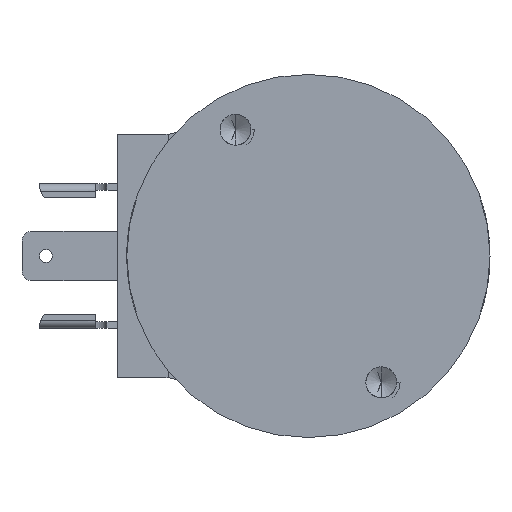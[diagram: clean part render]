
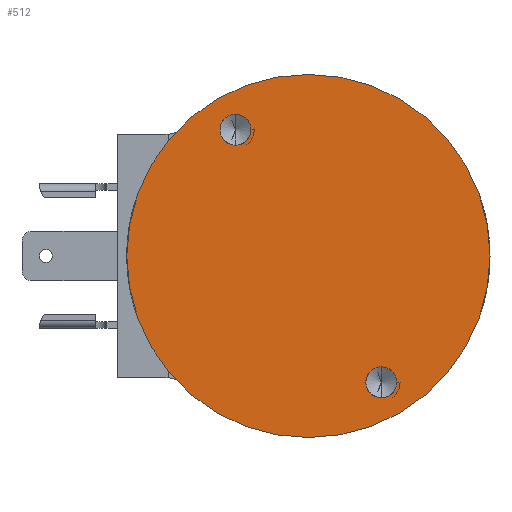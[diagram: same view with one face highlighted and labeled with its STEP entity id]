
A CAD part, front view. The second image highlights one B-rep face of the part: STEP entity #512.
In plain terms, the highlighted planar face has unit normal (0, -1, 0).
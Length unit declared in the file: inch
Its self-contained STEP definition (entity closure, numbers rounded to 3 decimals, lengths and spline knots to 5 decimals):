
#134 = CARTESIAN_POINT ( 'NONE',  ( 0., -1.74, 0. ) ) ;
#226 = CIRCLE ( 'NONE', #18549, 0.0795 ) ;
#423 = DIRECTION ( 'NONE',  ( 0., 0., 1. ) ) ;
#487 = AXIS2_PLACEMENT_3D ( 'NONE', #134, #9165, #423 ) ;
#512 = ADVANCED_FACE ( 'Defeatured_0_19', ( #8758, #18622, #16334 ), #14569, .F. ) ;
#816 = ORIENTED_EDGE ( 'NONE', *, *, #7359, .F. ) ;
#1103 = AXIS2_PLACEMENT_3D ( 'NONE', #12730, #18694, #12827 ) ;
#1674 = ORIENTED_EDGE ( 'NONE', *, *, #16246, .F. ) ;
#1828 = CARTESIAN_POINT ( 'NONE',  ( 0., -1.74, 0. ) ) ;
#2171 = EDGE_LOOP ( 'NONE', ( #816, #16410, #14311 ) ) ;
#2329 = CIRCLE ( 'NONE', #1103, 0.0795 ) ;
#2381 = CIRCLE ( 'NONE', #2703, 0.0795 ) ;
#2396 = CARTESIAN_POINT ( 'NONE',  ( -0.375, -1.74, 0.57002 ) ) ;
#2399 = DIRECTION ( 'NONE',  ( 0., 0., -1. ) ) ;
#2449 = CARTESIAN_POINT ( 'NONE',  ( 0.4545, -1.74, -0.64952 ) ) ;
#2703 = AXIS2_PLACEMENT_3D ( 'NONE', #8403, #15778, #9852 ) ;
#2796 = VERTEX_POINT ( 'NONE', #18935 ) ;
#2965 = AXIS2_PLACEMENT_3D ( 'NONE', #12729, #14294, #9442 ) ;
#3576 = CIRCLE ( 'NONE', #487, 0.934 ) ;
#3857 = DIRECTION ( 'NONE',  ( 0., 0., -1. ) ) ;
#4509 = EDGE_CURVE ( 'NONE', #5755, #12815, #2329, .T. ) ;
#4525 = AXIS2_PLACEMENT_3D ( 'NONE', #14855, #6761, #5858 ) ;
#4692 = ORIENTED_EDGE ( 'NONE', *, *, #12898, .F. ) ;
#5755 = VERTEX_POINT ( 'NONE', #18319 ) ;
#5778 = VERTEX_POINT ( 'NONE', #17941 ) ;
#5858 = DIRECTION ( 'NONE',  ( 0., 0., 1. ) ) ;
#6761 = DIRECTION ( 'NONE',  ( 0., 1., 0. ) ) ;
#6788 = CARTESIAN_POINT ( 'NONE',  ( 0.375, -1.74, -0.64952 ) ) ;
#6916 = EDGE_CURVE ( 'NONE', #8305, #2796, #2381, .T. ) ;
#7061 = CIRCLE ( 'NONE', #17934, 0.0795 ) ;
#7136 = EDGE_CURVE ( 'NONE', #5778, #16745, #15725, .T. ) ;
#7335 = EDGE_CURVE ( 'NONE', #15126, #5755, #7061, .T. ) ;
#7359 = EDGE_CURVE ( 'NONE', #12815, #15126, #226, .T. ) ;
#7675 = AXIS2_PLACEMENT_3D ( 'NONE', #1828, #9395, #13680 ) ;
#8305 = VERTEX_POINT ( 'NONE', #2396 ) ;
#8403 = CARTESIAN_POINT ( 'NONE',  ( -0.375, -1.74, 0.64952 ) ) ;
#8758 = FACE_BOUND ( 'NONE', #15341, .T. ) ;
#9165 = DIRECTION ( 'NONE',  ( 0., 1., 0. ) ) ;
#9271 = VERTEX_POINT ( 'NONE', #10625 ) ;
#9395 = DIRECTION ( 'NONE',  ( 0., 1., 0. ) ) ;
#9442 = DIRECTION ( 'NONE',  ( 0., 0., -1. ) ) ;
#9780 = DIRECTION ( 'NONE',  ( 0., -1., 0. ) ) ;
#9852 = DIRECTION ( 'NONE',  ( 0., 0., -1. ) ) ;
#9880 = CARTESIAN_POINT ( 'NONE',  ( 0.375, -1.74, -0.64952 ) ) ;
#9983 = ORIENTED_EDGE ( 'NONE', *, *, #12587, .F. ) ;
#10625 = CARTESIAN_POINT ( 'NONE',  ( -0.375, -1.74, 0.72902 ) ) ;
#11128 = CARTESIAN_POINT ( 'NONE',  ( -0.375, -1.74, 0.64952 ) ) ;
#11236 = DIRECTION ( 'NONE',  ( 0., -1., 0. ) ) ;
#12587 = EDGE_CURVE ( 'NONE', #16745, #5778, #3576, .T. ) ;
#12729 = CARTESIAN_POINT ( 'NONE',  ( -0.375, -1.74, 0.64952 ) ) ;
#12730 = CARTESIAN_POINT ( 'NONE',  ( 0.375, -1.74, -0.64952 ) ) ;
#12815 = VERTEX_POINT ( 'NONE', #2449 ) ;
#12827 = DIRECTION ( 'NONE',  ( 0., 0., -1. ) ) ;
#12881 = CIRCLE ( 'NONE', #2965, 0.0795 ) ;
#12886 = AXIS2_PLACEMENT_3D ( 'NONE', #11128, #17084, #16479 ) ;
#12898 = EDGE_CURVE ( 'NONE', #9271, #8305, #12881, .T. ) ;
#12951 = CARTESIAN_POINT ( 'NONE',  ( 0., -1.74, -0.934 ) ) ;
#13680 = DIRECTION ( 'NONE',  ( 0., 0., 1. ) ) ;
#13716 = ORIENTED_EDGE ( 'NONE', *, *, #7136, .F. ) ;
#14294 = DIRECTION ( 'NONE',  ( 0., -1., 0. ) ) ;
#14311 = ORIENTED_EDGE ( 'NONE', *, *, #7335, .F. ) ;
#14569 = PLANE ( 'NONE',  #4525 ) ;
#14855 = CARTESIAN_POINT ( 'NONE',  ( 0., -1.74, 0. ) ) ;
#14979 = CARTESIAN_POINT ( 'NONE',  ( 0.375, -1.74, -0.57002 ) ) ;
#15126 = VERTEX_POINT ( 'NONE', #14979 ) ;
#15341 = EDGE_LOOP ( 'NONE', ( #1674, #18523, #4692 ) ) ;
#15725 = CIRCLE ( 'NONE', #7675, 0.934 ) ;
#15778 = DIRECTION ( 'NONE',  ( 0., -1., 0. ) ) ;
#16246 = EDGE_CURVE ( 'NONE', #2796, #9271, #17264, .T. ) ;
#16334 = FACE_OUTER_BOUND ( 'NONE', #17415, .T. ) ;
#16410 = ORIENTED_EDGE ( 'NONE', *, *, #4509, .F. ) ;
#16479 = DIRECTION ( 'NONE',  ( 0., 0., -1. ) ) ;
#16745 = VERTEX_POINT ( 'NONE', #12951 ) ;
#17084 = DIRECTION ( 'NONE',  ( 0., -1., 0. ) ) ;
#17264 = CIRCLE ( 'NONE', #12886, 0.0795 ) ;
#17415 = EDGE_LOOP ( 'NONE', ( #13716, #9983 ) ) ;
#17934 = AXIS2_PLACEMENT_3D ( 'NONE', #6788, #11236, #3857 ) ;
#17941 = CARTESIAN_POINT ( 'NONE',  ( 0., -1.74, 0.934 ) ) ;
#18319 = CARTESIAN_POINT ( 'NONE',  ( 0.375, -1.74, -0.72902 ) ) ;
#18523 = ORIENTED_EDGE ( 'NONE', *, *, #6916, .F. ) ;
#18549 = AXIS2_PLACEMENT_3D ( 'NONE', #9880, #9780, #2399 ) ;
#18622 = FACE_BOUND ( 'NONE', #2171, .T. ) ;
#18694 = DIRECTION ( 'NONE',  ( 0., -1., 0. ) ) ;
#18935 = CARTESIAN_POINT ( 'NONE',  ( -0.2955, -1.74, 0.64952 ) ) ;
